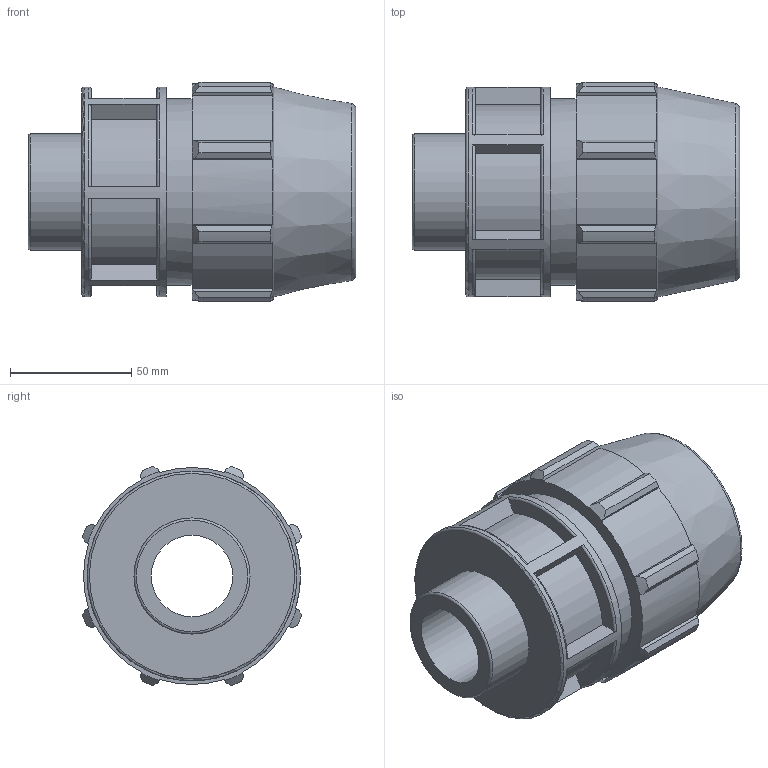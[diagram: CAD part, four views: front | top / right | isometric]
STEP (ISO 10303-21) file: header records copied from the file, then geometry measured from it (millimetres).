
FILE_DESCRIPTION(/* description */ ('PLASSON MALE ADAPTOR 1 1/2'''' - 1 1/2''''M'),/* implementation_level */ '2;1');
FILE_NAME(/* name */ 'C:\Dropbox\KIMPROJECTS-Inventor 2019\99-16-3568-Processing Inch\ASTM Compression 2021\0702M0T\0702M0T15015.ipt.stp',/* time_stamp */ '2021-08-26T12:30:23+03:00',/* author */ ('KIM'),/* organization */ (''),/* preprocessor_version */ 'ST-DEVELOPER v17.2',/* originating_system */ 'Autodesk Inventor 2019',/* authorisation */ '');
FILE_SCHEMA (('AUTOMOTIVE_DESIGN { 1 0 10303 214 3 1 1 }'));
Length unit declared in the file: inch
Products named in the file (1): 0702M0T15015
Bounding box: 134.87 x 90.34 x 90.34 mm (x, y, z)
Volume: 407345 mm3; surface area: 69960.6 mm2
Topology: 1 solids, 1 shells, 117 faces, 327 edges, 223 vertices
Faces by surface type: plane 63, cylinder 27, torus 15, cone 12
Full cylindrical faces by diameter (mm): 33.462 x1, 47.803 x1, 48.1 x1, 76.81 x1, 86.411 x1
Entity records: 4135 total; most frequent: CARTESIAN_POINT 948, ORIENTED_EDGE 654, DIRECTION 625, EDGE_CURVE 327, AXIS2_PLACEMENT_3D 236, VERTEX_POINT 223, LINE 153, VECTOR 153
